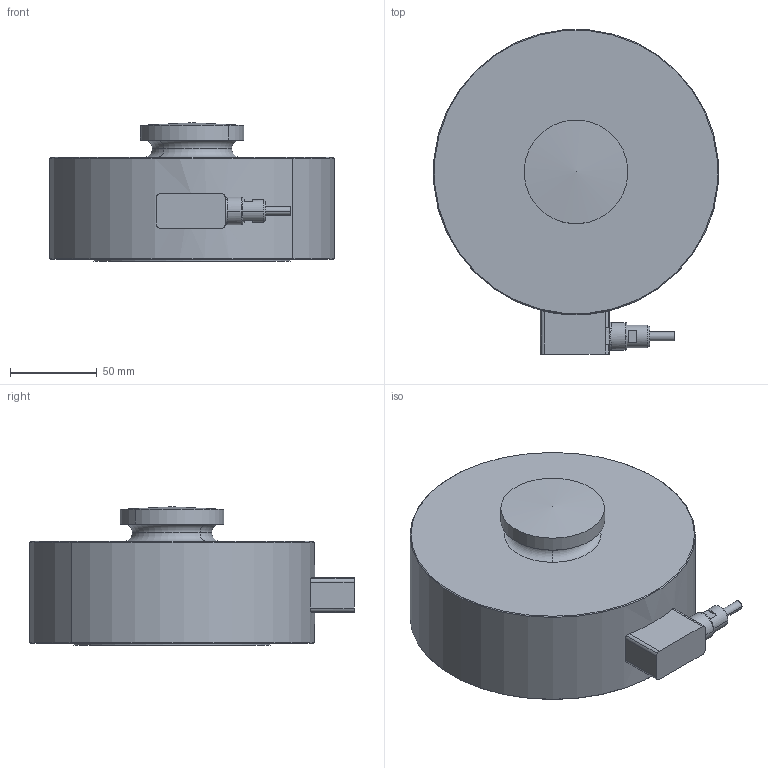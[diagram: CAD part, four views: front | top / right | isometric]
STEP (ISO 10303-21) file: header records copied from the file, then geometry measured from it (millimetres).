
FILE_DESCRIPTION (( 'STEP AP203' ), '1' );
FILE_NAME ('WSSCLC-50MT to 100MT.STEP', '2024-05-29T15:29:41', ( '' ), ( '' ), 'SwSTEP 2.0', 'SolidWorks 2023', '' );
FILE_SCHEMA (( 'CONFIG_CONTROL_DESIGN' ));
Length unit declared in the file: inch
Products named in the file (1): WSSCLC-50MT to 100MT
Bounding box: 164.37 x 187.51 x 80 mm (x, y, z)
Volume: 1315874.9 mm3; surface area: 87821.7 mm2
Topology: 1 solids, 1 shells, 89 faces, 215 edges, 129 vertices
Faces by surface type: cylinder 37, plane 21, cone 18, torus 8, bspline 4, sphere 1
Entity records: 3028 total; most frequent: CARTESIAN_POINT 939, DIRECTION 433, ORIENTED_EDGE 402, EDGE_CURVE 201, AXIS2_PLACEMENT_3D 176, VERTEX_POINT 128, EDGE_LOOP 103, CIRCLE 90
